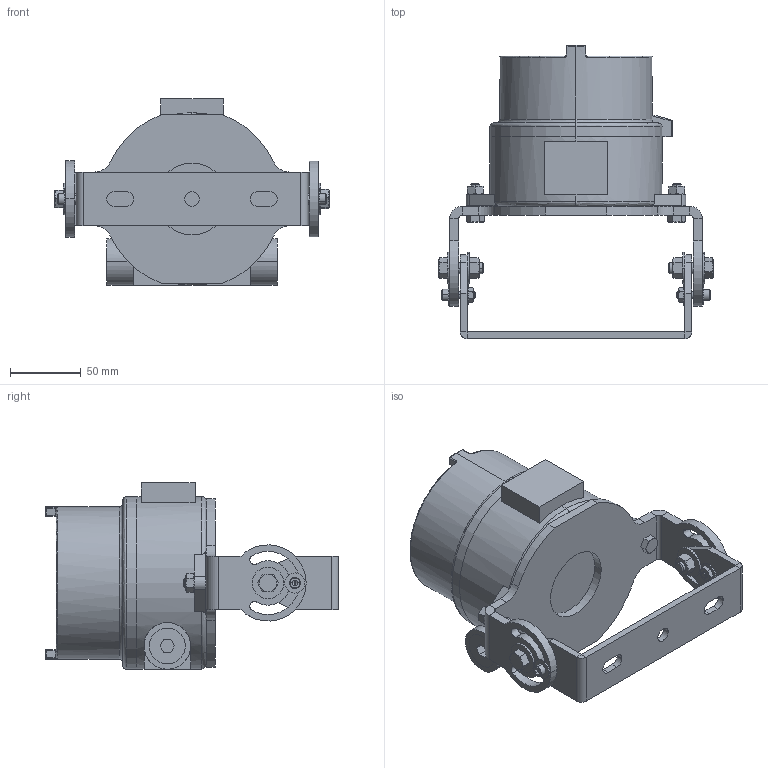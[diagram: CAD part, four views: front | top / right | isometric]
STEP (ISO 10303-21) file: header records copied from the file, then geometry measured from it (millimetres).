
FILE_DESCRIPTION (( 'STEP AP214' ), '1' );
FILE_NAME ('EXHL-TRN-XXX Mount.STEP', '2017-05-17T18:49:00', ( '' ), ( '' ), 'SwSTEP 2.0', 'SolidWorks 2016', '' );
FILE_SCHEMA (( 'AUTOMOTIVE_DESIGN' ));
Length unit declared in the file: inch
Products named in the file (13): socket head cap screw_ai_HX-SHCS 0.19-24x0.75x0.75-N; machine screw nut hex_ai_MSHXNUT 0.190-24-S-N; flat washer type b regular_ai_Regular FW 0.19; hex bolt_ai_HBOLT 0.3125-18x1x0.875-N; hex nut_ai_HNUT 0.3125-18-D-N; flat washer type b regular_ai_Regular FW 0.3125; HKB-GL Trunnion B; HKB-GL Trunnion A; HKB-GL; EXHL-TRN-XXX Mount; hex bolt_ai_HBOLT 0.2500-20x0.875x0.75-N; hex nut_ai_HNUT 0.2500-20-D-N; HKB-GL Trunnion Mount
Assembly tree (24 placements, depth 3):
  EXHL-TRN-XXX Mount
    HKB-GL Trunnion Mount
      HKB-GL
      HKB-GL Trunnion A
      HKB-GL Trunnion B
      flat washer type b regular_ai_Regular FW 0.3125  x4
      hex nut_ai_HNUT 0.3125-18-D-N  x2
      hex bolt_ai_HBOLT 0.3125-18x1x0.875-N  x2
      flat washer type b regular_ai_Regular FW 0.19  x4
      machine screw nut hex_ai_MSHXNUT 0.190-24-S-N  x2
      socket head cap screw_ai_HX-SHCS 0.19-24x0.75x0.75-N  x2
    hex nut_ai_HNUT 0.2500-20-D-N  x2
    hex bolt_ai_HBOLT 0.2500-20x0.875x0.75-N  x2
Bounding box: 194.21 x 207.72 x 132.12 mm (x, y, z)
Volume: 625370.8 mm3; surface area: 234670.9 mm2
Topology: 27 solids, 27 shells, 726 faces, 1658 edges, 994 vertices
Faces by surface type: plane 270, cylinder 249, cone 130, bspline 73, torus 4
Entity records: 19440 total; most frequent: CARTESIAN_POINT 6632, ORIENTED_EDGE 2540, DIRECTION 2524, EDGE_CURVE 1270, AXIS2_PLACEMENT_3D 986, VERTEX_POINT 769, EDGE_LOOP 611, LINE 552
